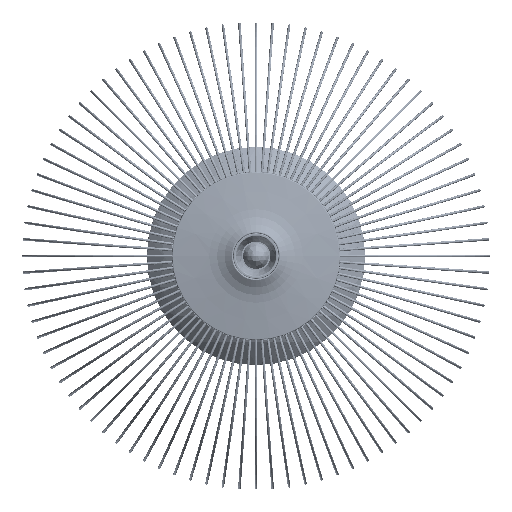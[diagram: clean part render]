
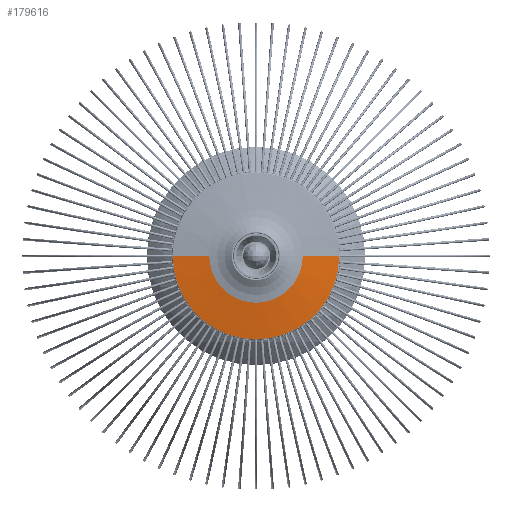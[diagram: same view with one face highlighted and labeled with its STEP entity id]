
A CAD part, front view. The second image highlights one B-rep face of the part: STEP entity #179616.
In plain terms, the highlighted conical face has half-angle 82 degrees and reference radius 80.878 mm.
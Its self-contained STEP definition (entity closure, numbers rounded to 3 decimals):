
#254 = CONICAL_SURFACE ( 'NONE', #130164, 80.878, 1.431 ) ;
#2157 = LINE ( 'NONE', #3305, #116023 ) ;
#3305 = CARTESIAN_POINT ( 'NONE',  ( 80.878, -3.5, 0. ) ) ;
#4611 = EDGE_CURVE ( 'NONE', #59787, #70782, #177536, .T. ) ;
#18038 = EDGE_LOOP ( 'NONE', ( #61885, #89942, #166607, #178335 ) ) ;
#19306 = CIRCLE ( 'NONE', #152967, 44.956 ) ;
#20352 = DIRECTION ( 'NONE',  ( 0., 1., 0. ) ) ;
#22770 = DIRECTION ( 'NONE',  ( -1., 0., 0. ) ) ;
#59787 = VERTEX_POINT ( 'NONE', #77659 ) ;
#61885 = ORIENTED_EDGE ( 'NONE', *, *, #199170, .T. ) ;
#64766 = DIRECTION ( 'NONE',  ( 0., 1., 0. ) ) ;
#70782 = VERTEX_POINT ( 'NONE', #198968 ) ;
#77659 = CARTESIAN_POINT ( 'NONE',  ( -80.047, -3.617, 0. ) ) ;
#80481 = CARTESIAN_POINT ( 'NONE',  ( 44.956, -8.548, 0. ) ) ;
#83910 = CARTESIAN_POINT ( 'NONE',  ( 0., -8.548, 0. ) ) ;
#89942 = ORIENTED_EDGE ( 'NONE', *, *, #100566, .T. ) ;
#95594 = VERTEX_POINT ( 'NONE', #108412 ) ;
#100456 = CARTESIAN_POINT ( 'NONE',  ( 0., -3.617, 0. ) ) ;
#100566 = EDGE_CURVE ( 'NONE', #95594, #59787, #236049, .T. ) ;
#101214 = EDGE_CURVE ( 'NONE', #108916, #70782, #2157, .T. ) ;
#108412 = CARTESIAN_POINT ( 'NONE',  ( -44.956, -8.548, 0. ) ) ;
#108916 = VERTEX_POINT ( 'NONE', #80481 ) ;
#111252 = DIRECTION ( 'NONE',  ( 1., 0., 0. ) ) ;
#116023 = VECTOR ( 'NONE', #183956, 1000. ) ;
#119199 = FACE_OUTER_BOUND ( 'NONE', #18038, .T. ) ;
#130164 = AXIS2_PLACEMENT_3D ( 'NONE', #137148, #20352, #111252 ) ;
#133976 = DIRECTION ( 'NONE',  ( 0., -1., 0. ) ) ;
#137148 = CARTESIAN_POINT ( 'NONE',  ( 0., -3.5, 0. ) ) ;
#152967 = AXIS2_PLACEMENT_3D ( 'NONE', #83910, #64766, #178339 ) ;
#164274 = CARTESIAN_POINT ( 'NONE',  ( -80.878, -3.5, 0. ) ) ;
#166607 = ORIENTED_EDGE ( 'NONE', *, *, #4611, .T. ) ;
#177536 = CIRCLE ( 'NONE', #200578, 80.047 ) ;
#178335 = ORIENTED_EDGE ( 'NONE', *, *, #101214, .F. ) ;
#178339 = DIRECTION ( 'NONE',  ( 1., 0., 0. ) ) ;
#179616 = ADVANCED_FACE ( 'NONE', ( #119199 ), #254, .T. ) ;
#183956 = DIRECTION ( 'NONE',  ( 0.99, 0.139, 0. ) ) ;
#188386 = VECTOR ( 'NONE', #218079, 1000. ) ;
#198968 = CARTESIAN_POINT ( 'NONE',  ( 80.047, -3.617, 0. ) ) ;
#199170 = EDGE_CURVE ( 'NONE', #108916, #95594, #19306, .T. ) ;
#200578 = AXIS2_PLACEMENT_3D ( 'NONE', #100456, #133976, #22770 ) ;
#218079 = DIRECTION ( 'NONE',  ( -0.99, 0.139, 0. ) ) ;
#236049 = LINE ( 'NONE', #164274, #188386 ) ;
